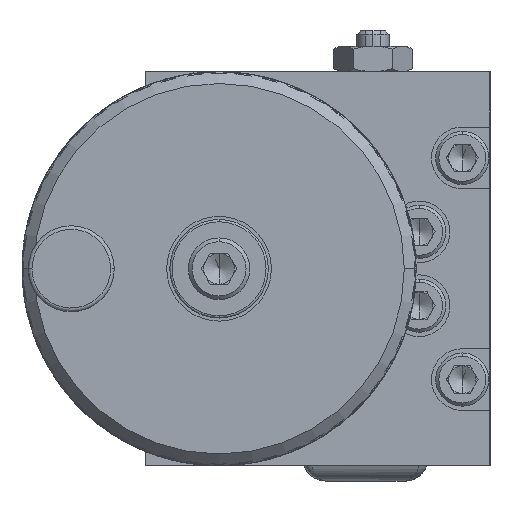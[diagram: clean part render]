
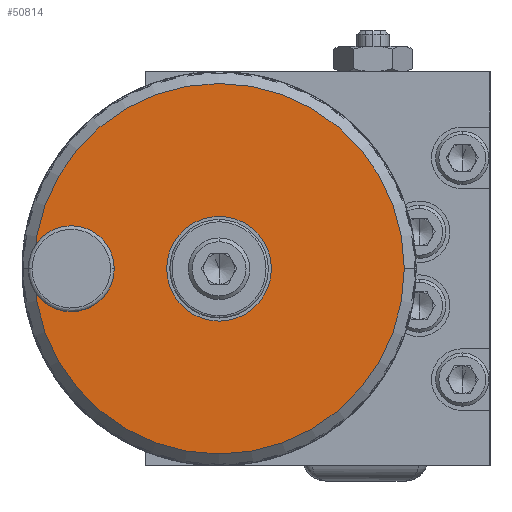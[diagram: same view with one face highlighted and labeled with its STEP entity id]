
A CAD part, left-side view. The second image highlights one B-rep face of the part: STEP entity #50814.
In plain terms, the highlighted planar face has unit normal (-1, 0, 0) as drawn and (0, 0, 1) by its records, which use the part's own axes.
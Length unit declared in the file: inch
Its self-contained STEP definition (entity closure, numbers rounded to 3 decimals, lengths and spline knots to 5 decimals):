
#1670 = VERTEX_POINT ( 'NONE', #56670 ) ;
#8997 = EDGE_LOOP ( 'NONE', ( #63872, #63878 ) ) ;
#8998 = EDGE_LOOP ( 'NONE', ( #63854, #63860 ) ) ;
#9000 = EDGE_LOOP ( 'NONE', ( #63847, #63851 ) ) ;
#15776 = FACE_BOUND ( 'NONE', #8998, .T. ) ;
#15780 = DIRECTION ( 'NONE',  ( 0., 0., -1. ) ) ;
#15786 = FACE_BOUND ( 'NONE', #9000, .T. ) ;
#15787 = CARTESIAN_POINT ( 'NONE',  ( 0., 1., 0.5625 ) ) ;
#15791 = FACE_OUTER_BOUND ( 'NONE', #8997, .T. ) ;
#15794 = PLANE ( 'NONE',  #16647 ) ;
#15796 = DIRECTION ( 'NONE',  ( 0., 1., 0. ) ) ;
#16647 = AXIS2_PLACEMENT_3D ( 'NONE', #15787, #15780, #15796 ) ;
#16837 = CIRCLE ( 'NONE', #16839, 0.94 ) ;
#16839 = AXIS2_PLACEMENT_3D ( 'NONE', #21105, #21106, #21107 ) ;
#18600 = CARTESIAN_POINT ( 'NONE',  ( -0.07475, 0.75, 0.5625 ) ) ;
#20937 = CARTESIAN_POINT ( 'NONE',  ( 0.26563, 0., 0.5625 ) ) ;
#21089 = CARTESIAN_POINT ( 'NONE',  ( 0.07475, 0.75, 0.5625 ) ) ;
#21098 = CARTESIAN_POINT ( 'NONE',  ( -0.26563, 0., 0.5625 ) ) ;
#21105 = CARTESIAN_POINT ( 'NONE',  ( 0., 0., 0.5625 ) ) ;
#21106 = DIRECTION ( 'NONE',  ( 0., 0., 1. ) ) ;
#21107 = DIRECTION ( 'NONE',  ( 0., 1., 0. ) ) ;
#23847 = CIRCLE ( 'NONE', #23897, 0.07475 ) ;
#23874 = CIRCLE ( 'NONE', #23896, 0.26563 ) ;
#23875 = CIRCLE ( 'NONE', #23876, 0.94 ) ;
#23876 = AXIS2_PLACEMENT_3D ( 'NONE', #50242, #50243, #50246 ) ;
#23896 = AXIS2_PLACEMENT_3D ( 'NONE', #50259, #50262, #50265 ) ;
#23897 = AXIS2_PLACEMENT_3D ( 'NONE', #50250, #50252, #50254 ) ;
#28798 = CARTESIAN_POINT ( 'NONE',  ( 0., 0., 0.5625 ) ) ;
#28799 = DIRECTION ( 'NONE',  ( 0., 0., 1. ) ) ;
#28800 = DIRECTION ( 'NONE',  ( 1., 0., 0. ) ) ;
#28845 = CARTESIAN_POINT ( 'NONE',  ( 0., 0.75, 0.5625 ) ) ;
#28846 = DIRECTION ( 'NONE',  ( 0., 0., 1. ) ) ;
#28847 = DIRECTION ( 'NONE',  ( 1., 0., 0. ) ) ;
#30401 = CIRCLE ( 'NONE', #30405, 0.26563 ) ;
#30405 = AXIS2_PLACEMENT_3D ( 'NONE', #28798, #28799, #28800 ) ;
#30419 = CIRCLE ( 'NONE', #30423, 0.07475 ) ;
#30423 = AXIS2_PLACEMENT_3D ( 'NONE', #28845, #28846, #28847 ) ;
#34515 = EDGE_CURVE ( 'NONE', #68027, #1670, #23875, .T. ) ;
#34517 = EDGE_CURVE ( 'NONE', #52482, #52235, #23847, .T. ) ;
#34519 = EDGE_CURVE ( 'NONE', #52401, #52489, #23874, .T. ) ;
#42175 = CARTESIAN_POINT ( 'NONE',  ( 0., 0.94, 0.5625 ) ) ;
#50242 = CARTESIAN_POINT ( 'NONE',  ( 0., 0., 0.5625 ) ) ;
#50243 = DIRECTION ( 'NONE',  ( 0., 0., 1. ) ) ;
#50246 = DIRECTION ( 'NONE',  ( 0., 1., 0. ) ) ;
#50250 = CARTESIAN_POINT ( 'NONE',  ( 0., 0.75, 0.5625 ) ) ;
#50252 = DIRECTION ( 'NONE',  ( 0., 0., 1. ) ) ;
#50254 = DIRECTION ( 'NONE',  ( 1., 0., 0. ) ) ;
#50259 = CARTESIAN_POINT ( 'NONE',  ( 0., 0., 0.5625 ) ) ;
#50262 = DIRECTION ( 'NONE',  ( 0., 0., 1. ) ) ;
#50265 = DIRECTION ( 'NONE',  ( 1., 0., 0. ) ) ;
#50814 = ADVANCED_FACE ( 'NONE', ( #15786, #15776, #15791 ), #15794, .F. ) ;
#52235 = VERTEX_POINT ( 'NONE', #18600 ) ;
#52401 = VERTEX_POINT ( 'NONE', #20937 ) ;
#52482 = VERTEX_POINT ( 'NONE', #21089 ) ;
#52489 = VERTEX_POINT ( 'NONE', #21098 ) ;
#52490 = EDGE_CURVE ( 'NONE', #1670, #68027, #16837, .T. ) ;
#54503 = EDGE_CURVE ( 'NONE', #52489, #52401, #30401, .T. ) ;
#54532 = EDGE_CURVE ( 'NONE', #52235, #52482, #30419, .T. ) ;
#56670 = CARTESIAN_POINT ( 'NONE',  ( 0., -0.94, 0.5625 ) ) ;
#63847 = ORIENTED_EDGE ( 'NONE', *, *, #34519, .F. ) ;
#63851 = ORIENTED_EDGE ( 'NONE', *, *, #54503, .F. ) ;
#63854 = ORIENTED_EDGE ( 'NONE', *, *, #34517, .F. ) ;
#63860 = ORIENTED_EDGE ( 'NONE', *, *, #54532, .F. ) ;
#63872 = ORIENTED_EDGE ( 'NONE', *, *, #34515, .T. ) ;
#63878 = ORIENTED_EDGE ( 'NONE', *, *, #52490, .T. ) ;
#68027 = VERTEX_POINT ( 'NONE', #42175 ) ;
